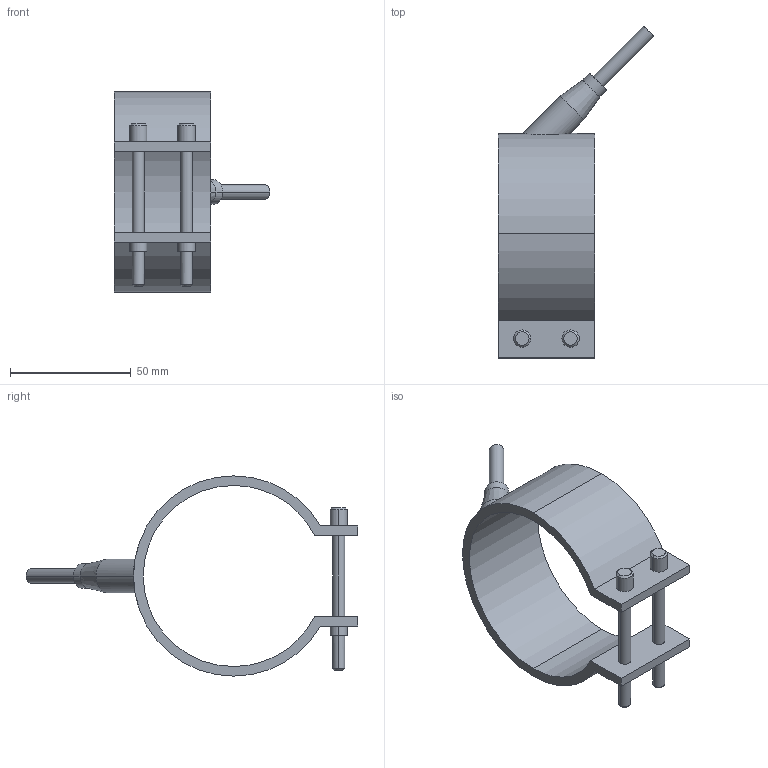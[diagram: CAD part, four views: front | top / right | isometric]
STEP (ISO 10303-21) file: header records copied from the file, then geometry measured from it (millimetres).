
FILE_DESCRIPTION(('CATIA V5 STEP Exchange'),'2;1');
FILE_NAME('C:\Users\Utente\Desktop\IO LAVORO\3D X SITO CF\X SITO\PLASTICA\RF1\29075040.stp','2021-03-29T18:14:41+00:00',('none'),('none'),'CATIA Version 5 Release 20 GA (IN-10)','CATIA V5 STEP AP203','none');
FILE_SCHEMA(('CONFIG_CONTROL_DESIGN'));
Length unit declared in the file: millimetre
Products named in the file (1): 29075040
Bounding box: 64.55 x 137.55 x 83 mm (x, y, z)
Volume: 46379.9 mm3; surface area: 25231.8 mm2
Topology: 1 solids, 1 shells, 54 faces, 125 edges, 81 vertices
Faces by surface type: cylinder 28, plane 16, cone 10
Entity records: 1732 total; most frequent: CARTESIAN_POINT 486, ORIENTED_EDGE 250, DIRECTION 215, EDGE_CURVE 125, AXIS2_PLACEMENT_3D 108, VERTEX_POINT 81, EDGE_LOOP 66, VECTOR 56
